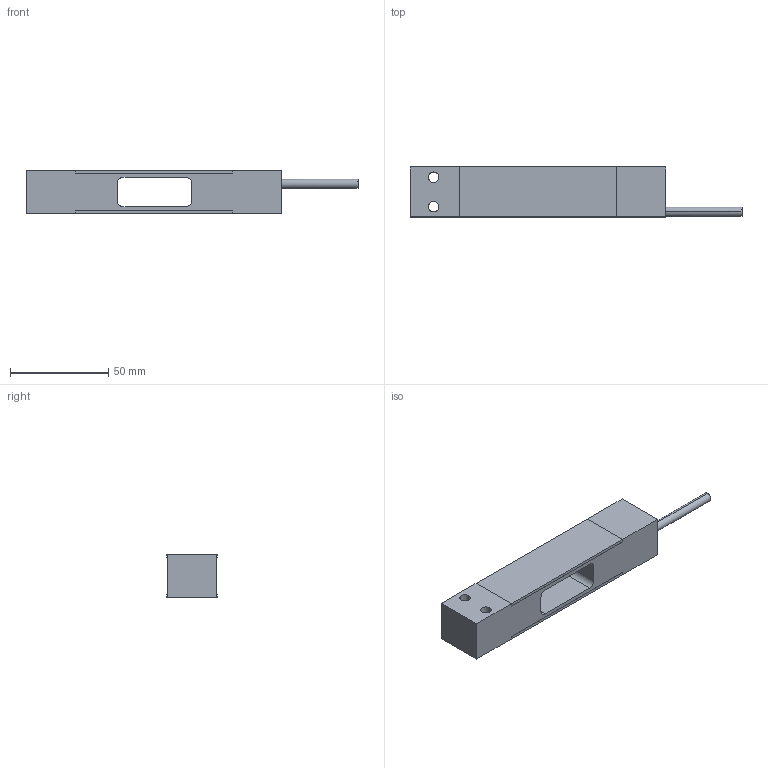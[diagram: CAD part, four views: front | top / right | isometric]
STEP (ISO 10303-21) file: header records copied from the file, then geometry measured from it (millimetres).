
FILE_DESCRIPTION (( 'STEP AP203' ), '1' );
FILE_NAME ('Load_Sensor_HISPA22_5KG.STEP', '2014-10-08T23:43:46', ( '' ), ( '' ), 'SwSTEP 2.0', 'SolidWorks 2013', '' );
FILE_SCHEMA (( 'CONFIG_CONTROL_DESIGN' ));
Length unit declared in the file: millimetre
Products named in the file (1): Load_Sensor_HISPA22_5KG
Bounding box: 168.72 x 25.42 x 22.02 mm (x, y, z)
Volume: 57711.1 mm3; surface area: 16586.5 mm2
Topology: 1 solids, 1 shells, 44 faces, 117 edges, 78 vertices
Faces by surface type: plane 30, cylinder 14
Entity records: 1621 total; most frequent: CARTESIAN_POINT 427, ORIENTED_EDGE 234, DIRECTION 220, EDGE_CURVE 117, VECTOR 86, LINE 86, VERTEX_POINT 78, AXIS2_PLACEMENT_3D 67
